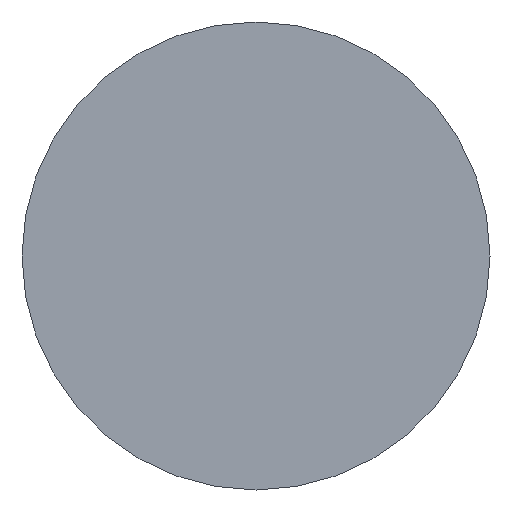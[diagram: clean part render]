
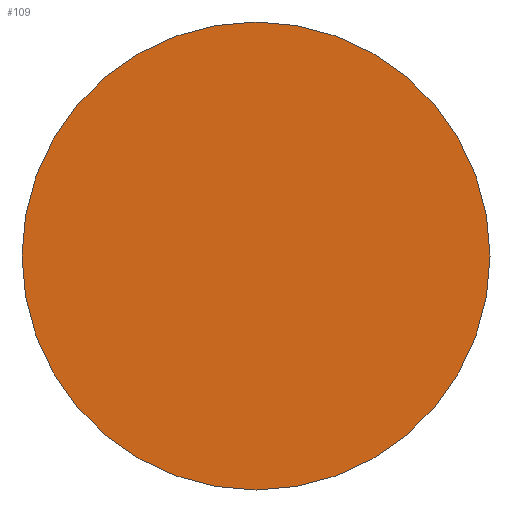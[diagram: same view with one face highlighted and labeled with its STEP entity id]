
A CAD part, front view. The second image highlights one B-rep face of the part: STEP entity #109.
In plain terms, the highlighted planar face has unit normal (0, -1, 0).
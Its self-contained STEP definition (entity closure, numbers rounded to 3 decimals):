
#31 = CYLINDRICAL_SURFACE('',#32,2.5);
#32 = AXIS2_PLACEMENT_3D('',#33,#34,#35);
#33 = CARTESIAN_POINT('',(96.,-44.,222.));
#34 = DIRECTION('',(0.,1.,0.));
#35 = DIRECTION('',(0.,-0.,1.));
#56 = VERTEX_POINT('',#57);
#57 = CARTESIAN_POINT('',(96.,-44.,224.5));
#78 = EDGE_CURVE('',#56,#56,#79,.T.);
#79 = SURFACE_CURVE('',#80,(#85,#92),.PCURVE_S1.);
#80 = CIRCLE('',#81,2.5);
#81 = AXIS2_PLACEMENT_3D('',#82,#83,#84);
#82 = CARTESIAN_POINT('',(96.,-44.,222.));
#83 = DIRECTION('',(0.,1.,0.));
#84 = DIRECTION('',(0.,-0.,1.));
#85 = PCURVE('',#31,#86);
#86 = DEFINITIONAL_REPRESENTATION('',(#87),#91);
#87 = LINE('',#88,#89);
#88 = CARTESIAN_POINT('',(0.,0.));
#89 = VECTOR('',#90,1.);
#90 = DIRECTION('',(1.,0.));
#91 = ( GEOMETRIC_REPRESENTATION_CONTEXT(2) 
PARAMETRIC_REPRESENTATION_CONTEXT() REPRESENTATION_CONTEXT('2D SPACE',''
  ) );
#92 = PCURVE('',#93,#98);
#93 = PLANE('',#94);
#94 = AXIS2_PLACEMENT_3D('',#95,#96,#97);
#95 = CARTESIAN_POINT('',(96.,-44.,222.));
#96 = DIRECTION('',(0.,1.,0.));
#97 = DIRECTION('',(0.,-0.,1.));
#98 = DEFINITIONAL_REPRESENTATION('',(#99),#103);
#99 = CIRCLE('',#100,2.5);
#100 = AXIS2_PLACEMENT_2D('',#101,#102);
#101 = CARTESIAN_POINT('',(0.,0.));
#102 = DIRECTION('',(1.,0.));
#103 = ( GEOMETRIC_REPRESENTATION_CONTEXT(2) 
PARAMETRIC_REPRESENTATION_CONTEXT() REPRESENTATION_CONTEXT('2D SPACE',''
  ) );
#109 = ADVANCED_FACE('',(#110),#93,.F.);
#110 = FACE_BOUND('',#111,.T.);
#111 = EDGE_LOOP('',(#112));
#112 = ORIENTED_EDGE('',*,*,#78,.F.);
